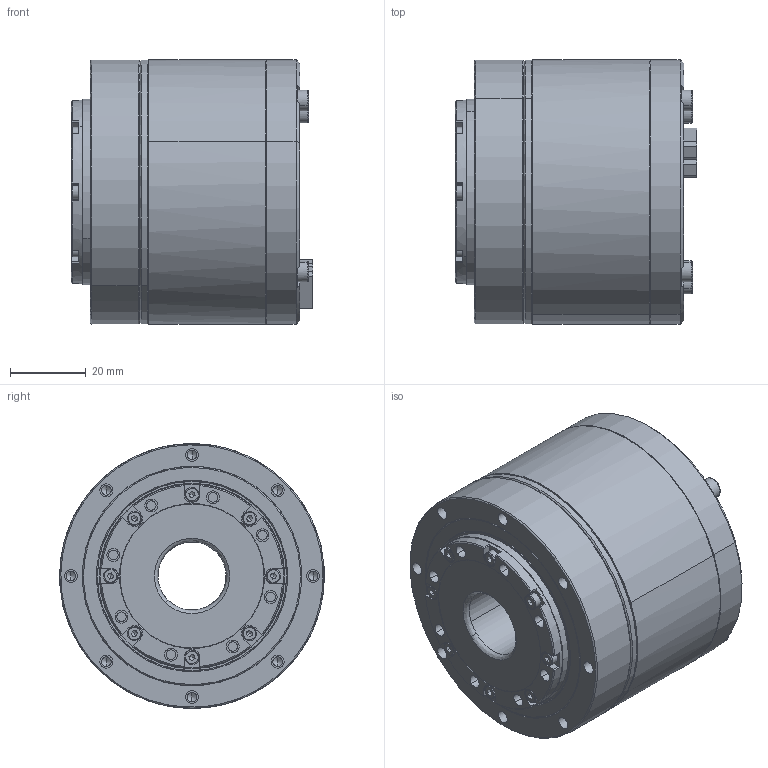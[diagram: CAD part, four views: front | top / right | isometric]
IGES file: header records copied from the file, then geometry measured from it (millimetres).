
Start section: SolidWorks IGES file using analytic representation for surfaces
Global section: file name: 89HG:\李鸿彬\00 官网需更新模型\00官网需更新模型 源文件\官网更新3D\I型\eRob70F 扁平型\eRob70F 扁平型 不带刹车（V3）\eRob70F××I-F-XX-18EX_V3_MC2A.BX.XX\eRob70F××I-F-XX-18EX_V3_MC2A.BX.XX.IGS; native system: SolidWorks 2021; preprocessor: SolidWorks 2021; author: ZERO; date: 250402.151213; units: millimetre
Bounding box: 63.8 x 69.93 x 70 mm (x, y, z)
Volume: 201666.2 mm3; surface area: 31943.5 mm2
Topology: 1 solids, 1 shells, 2712 faces, 7320 edges, 4754 vertices
Faces by surface type: plane 1957, revolution 423, bspline 332
